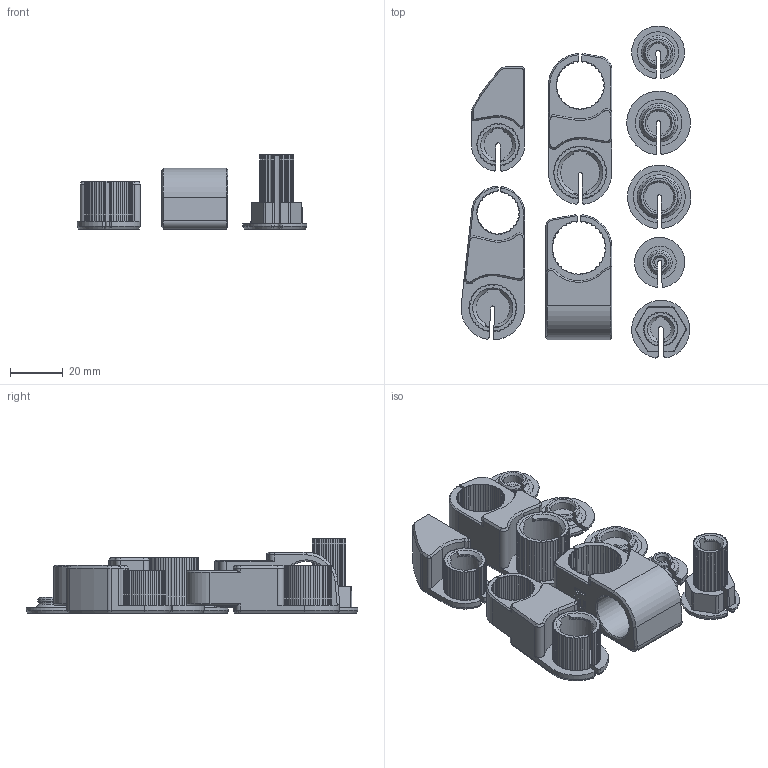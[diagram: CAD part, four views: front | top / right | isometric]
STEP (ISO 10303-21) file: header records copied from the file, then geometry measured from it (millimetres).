
FILE_DESCRIPTION (( 'STEP AP214' ), '1' );
FILE_NAME ('Robot Hand Thump E.STEP', '2024-06-24T13:57:18', ( '' ), ( '' ), 'SwSTEP 2.0', 'SolidWorks 2021', '' );
FILE_SCHEMA (( 'AUTOMOTIVE_DESIGN' ));
Length unit declared in the file: millimetre
Products named in the file (10): Thump E1; Cover E0; Cover E3; Cover E1; Thump E2; Thump E4; Robot Hand Thump E; Cover E2; Cover counterpart E0; Thump E3
Assembly tree (9 placements, depth 2):
  Robot Hand Thump E
    Thump E1
    Thump E2
    Thump E3
    Thump E4
    Cover counterpart E0
    Cover E0
    Cover E1
    Cover E2
    Cover E3
Bounding box: 86.8 x 125.39 x 28 mm (x, y, z)
Volume: 48021.1 mm3; surface area: 31522.5 mm2
Topology: 9 solids, 9 shells, 1073 faces, 2989 edges, 1956 vertices
Faces by surface type: cylinder 553, plane 341, cone 103, bspline 76
Full cylindrical faces by diameter (mm): 17 x1
Entity records: 38891 total; most frequent: CARTESIAN_POINT 10721, ORIENTED_EDGE 5972, DIRECTION 5873, EDGE_CURVE 2986, AXIS2_PLACEMENT_3D 2179, VERTEX_POINT 1955, LINE 1515, VECTOR 1515
